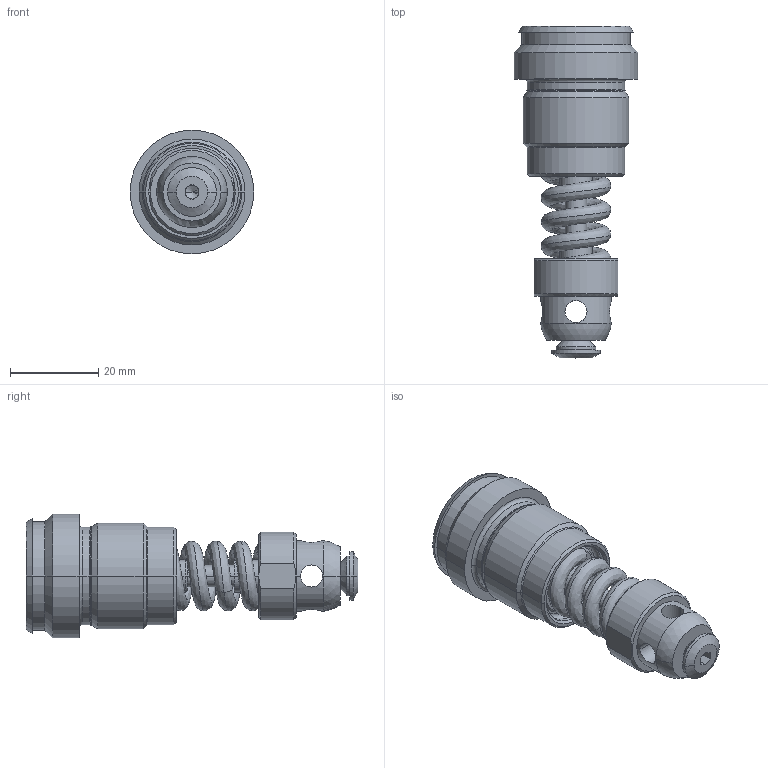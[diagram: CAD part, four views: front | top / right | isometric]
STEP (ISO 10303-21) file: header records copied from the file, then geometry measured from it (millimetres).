
FILE_DESCRIPTION((''),'2;1');
FILE_NAME('DBV2','2011-03-14T',('tvatras'),(''),'PRO/ENGINEER BY PARAMETRIC TECHNOLOGY CORPORATION, 2010180','PRO/ENGINEER BY PARAMETRIC TECHNOLOGY CORPORATION, 2010180','');
FILE_SCHEMA(('CONFIG_CONTROL_DESIGN'));
Length unit declared in the file: millimetre
Products named in the file (1): DBV2
Bounding box: 28 x 75.17 x 28 mm (x, y, z)
Volume: 17160.4 mm3; surface area: 11528.8 mm2
Topology: 1 solids, 3 shells, 136 faces, 304 edges, 182 vertices
Faces by surface type: cylinder 48, plane 42, cone 34, torus 6, bspline 4, sphere 2
Entity records: 9548 total; most frequent: CARTESIAN_POINT 6476, DIRECTION 660, ORIENTED_EDGE 596, EDGE_CURVE 300, AXIS2_PLACEMENT_3D 267, VERTEX_POINT 180, EDGE_LOOP 156, FACE_OUTER_BOUND 136
